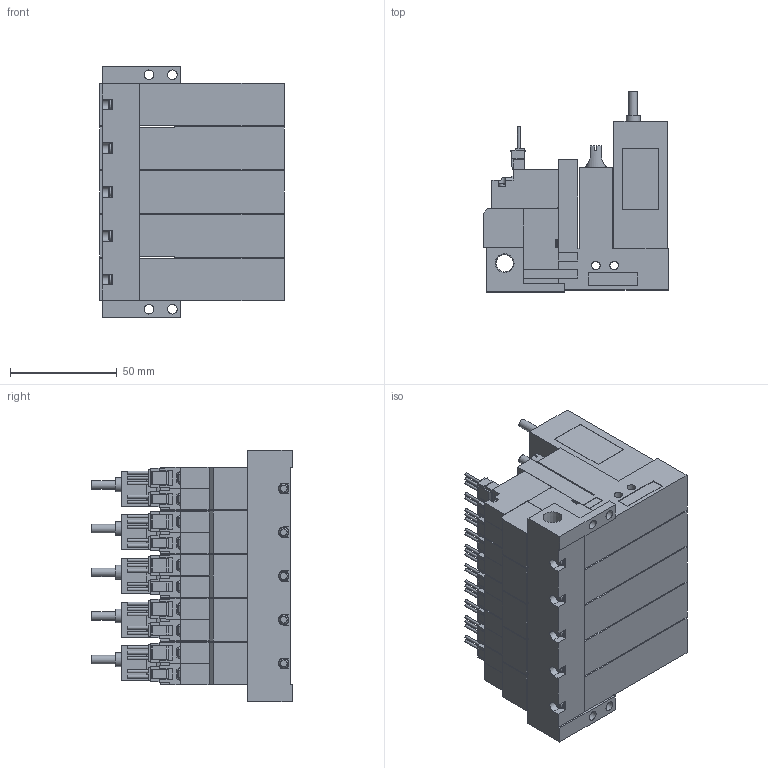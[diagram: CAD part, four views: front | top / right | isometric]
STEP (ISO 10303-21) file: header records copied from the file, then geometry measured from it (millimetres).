
FILE_DESCRIPTION(('STEP AP203'),'1');
FILE_NAME('VG_VGPL5WLR505.stp','2025-02-19T01:12:07',(' '),(' '),'Spatial InterOp 3D',' ',' ');
FILE_SCHEMA(('CONFIG_CONTROL_DESIGN'));
Length unit declared in the file: millimetre
Products named in the file (5): BMC22M※※※※VG_VGPL5WLR505; Solenoid valve W; Pressure sensor VGL; Unit L; Base MR50R
Assembly tree (16 placements, depth 2):
  BMC22M※※※※VG_VGPL5WLR505
    Solenoid valve W  x5
    Pressure sensor VGL  x5
    Unit L  x5
    Base MR50R
Bounding box: 86.6 x 94 x 118 mm (x, y, z)
Volume: 502583.9 mm3; surface area: 135917.5 mm2
Topology: 16 solids, 16 shells, 1821 faces, 4869 edges, 3225 vertices
Faces by surface type: plane 1534, cylinder 235, cone 37, torus 15
Full cylindrical faces by diameter (mm): 1.4 x25, 2.5 x15, 3 x20, 3.5 x20, 3.6 x5, 4 x30, 4.134 x5, 4.5 x4, 5.2 x5, 6 x5, 6.5 x5, 6.6 x5, 8.279 x1
Entity records: 13696 total; most frequent: CARTESIAN_POINT 2593, DIRECTION 2189, ORIENTED_EDGE 2126, EDGE_CURVE 1063, LINE 851, VECTOR 851, VERTEX_POINT 748, AXIS2_PLACEMENT_3D 669
